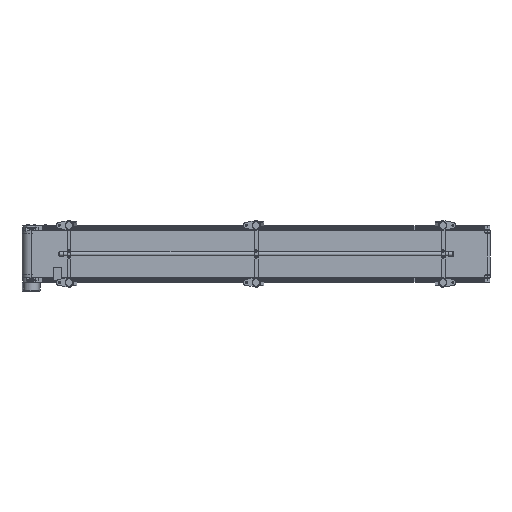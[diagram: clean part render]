
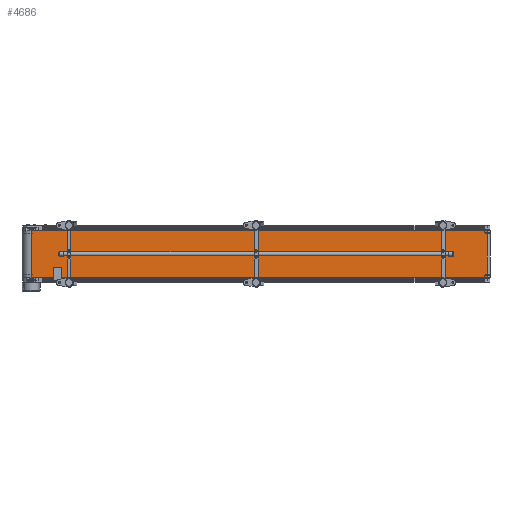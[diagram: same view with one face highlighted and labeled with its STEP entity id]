
A CAD part, front view. The second image highlights one B-rep face of the part: STEP entity #4686.
In plain terms, the highlighted planar face has unit normal (0.028, -1, 0).
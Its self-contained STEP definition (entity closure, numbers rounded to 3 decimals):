
#4686=ADVANCED_FACE('',(#29969),#29968,.F.);
#29968=PLANE('',#45965);
#29969=FACE_OUTER_BOUND('',#45966,.T.);
#45962=CARTESIAN_POINT('',(2992.998,-33.417,-160.));
#45963=DIRECTION('',(-0.028,1.,0.));
#45964=DIRECTION('',(-1.,-0.028,0.));
#45965=AXIS2_PLACEMENT_3D('',#45962,#45963,#45964);
#45966=EDGE_LOOP('',(#59034,#59035,#59036,#59037));
#59034=ORIENTED_EDGE('',*,*,#66002,.T.);
#59035=ORIENTED_EDGE('',*,*,#66009,.F.);
#59036=ORIENTED_EDGE('',*,*,#65996,.F.);
#59037=ORIENTED_EDGE('',*,*,#66010,.T.);
#65996=EDGE_CURVE('',#107462,#107447,#107469,.T.);
#66002=EDGE_CURVE('',#107511,#107503,#107512,.T.);
#66009=EDGE_CURVE('',#107447,#107503,#107559,.T.);
#66010=EDGE_CURVE('',#107462,#107511,#107565,.T.);
#107447=VERTEX_POINT('',#135591);
#107462=VERTEX_POINT('',#135601);
#107469=LINE('',#135606,#135607);
#107503=VERTEX_POINT('',#135627);
#107511=VERTEX_POINT('',#135633);
#107512=LINE('',#135634,#135635);
#107559=LINE('',#135663,#135664);
#107565=LINE('',#135666,#135667);
#135591=CARTESIAN_POINT('',(2983.002,-33.693,150.));
#135601=CARTESIAN_POINT('',(59.109,-114.328,150.));
#135606=CARTESIAN_POINT('',(59.109,-114.328,150.));
#135607=VECTOR('',#135608,2925.005);
#135608=DIRECTION('',(1.,0.028,0.));
#135627=CARTESIAN_POINT('',(2983.002,-33.693,-150.));
#135633=CARTESIAN_POINT('',(59.109,-114.328,-150.));
#135634=CARTESIAN_POINT('',(59.109,-114.328,-150.));
#135635=VECTOR('',#135636,2925.005);
#135636=DIRECTION('',(1.,0.028,0.));
#135663=CARTESIAN_POINT('',(2983.002,-33.693,150.));
#135664=VECTOR('',#135665,300.);
#135665=DIRECTION('',(0.,0.,-1.));
#135666=CARTESIAN_POINT('',(59.109,-114.328,150.));
#135667=VECTOR('',#135668,300.);
#135668=DIRECTION('',(0.,0.,-1.));
